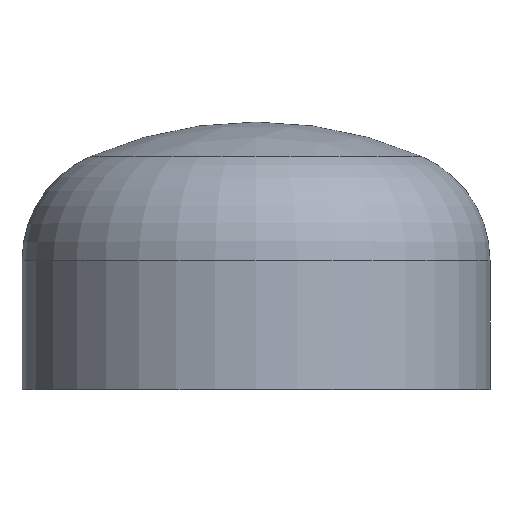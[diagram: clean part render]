
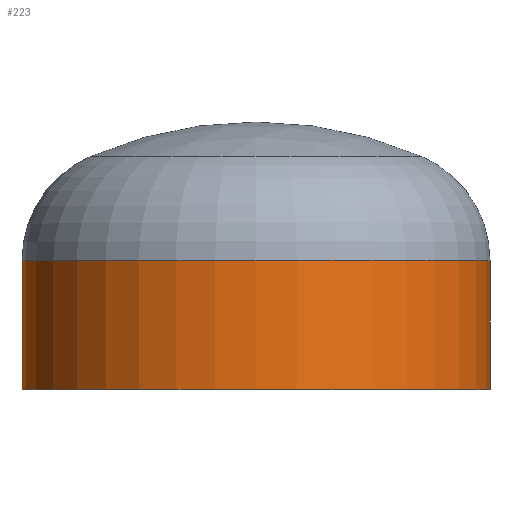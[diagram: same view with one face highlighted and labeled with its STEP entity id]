
A CAD part, top view. The second image highlights one B-rep face of the part: STEP entity #223.
In plain terms, the highlighted cylindrical face has radius 254 mm (diameter 508 mm), a partial arc.
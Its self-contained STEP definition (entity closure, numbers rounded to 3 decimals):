
#24 = DIRECTION ( 'NONE',  ( 0., -1., 0. ) ) ;
#34 = VERTEX_POINT ( 'NONE', #235 ) ;
#38 = ORIENTED_EDGE ( 'NONE', *, *, #87, .F. ) ;
#39 = VERTEX_POINT ( 'NONE', #217 ) ;
#47 = VERTEX_POINT ( 'NONE', #284 ) ;
#50 = ORIENTED_EDGE ( 'NONE', *, *, #152, .T. ) ;
#55 = LINE ( 'NONE', #322, #375 ) ;
#61 = CIRCLE ( 'NONE', #273, 254. ) ;
#68 = EDGE_CURVE ( 'NONE', #34, #39, #55, .T. ) ;
#76 = CARTESIAN_POINT ( 'NONE',  ( 0., 140., 0. ) ) ;
#87 = EDGE_CURVE ( 'NONE', #39, #47, #311, .T. ) ;
#93 = ORIENTED_EDGE ( 'NONE', *, *, #68, .F. ) ;
#98 = ORIENTED_EDGE ( 'NONE', *, *, #387, .T. ) ;
#109 = DIRECTION ( 'NONE',  ( 1., 0., 0. ) ) ;
#120 = VERTEX_POINT ( 'NONE', #305 ) ;
#124 = EDGE_LOOP ( 'NONE', ( #98, #50, #38, #93 ) ) ;
#141 = DIRECTION ( 'NONE',  ( 1., 0., 0. ) ) ;
#152 = EDGE_CURVE ( 'NONE', #120, #47, #252, .T. ) ;
#169 = VECTOR ( 'NONE', #345, 1000. ) ;
#190 = DIRECTION ( 'NONE',  ( 0., -1., 0. ) ) ;
#195 = AXIS2_PLACEMENT_3D ( 'NONE', #348, #347, #109 ) ;
#217 = CARTESIAN_POINT ( 'NONE',  ( 254., 0., 0. ) ) ;
#223 = ADVANCED_FACE ( 'NONE', ( #232 ), #285, .T. ) ;
#232 = FACE_OUTER_BOUND ( 'NONE', #124, .T. ) ;
#235 = CARTESIAN_POINT ( 'NONE',  ( 254., 140., 0. ) ) ;
#252 = LINE ( 'NONE', #315, #169 ) ;
#273 = AXIS2_PLACEMENT_3D ( 'NONE', #76, #24, #141 ) ;
#284 = CARTESIAN_POINT ( 'NONE',  ( -254., 0., 0. ) ) ;
#285 = CYLINDRICAL_SURFACE ( 'NONE', #352, 254. ) ;
#289 = CARTESIAN_POINT ( 'NONE',  ( 0., 0., 0. ) ) ;
#301 = DIRECTION ( 'NONE',  ( 1., 0., 0. ) ) ;
#305 = CARTESIAN_POINT ( 'NONE',  ( -254., 140., 0. ) ) ;
#311 = CIRCLE ( 'NONE', #195, 254. ) ;
#315 = CARTESIAN_POINT ( 'NONE',  ( -254., 0., 0. ) ) ;
#322 = CARTESIAN_POINT ( 'NONE',  ( 254., 0., 0. ) ) ;
#345 = DIRECTION ( 'NONE',  ( 0., -1., 0. ) ) ;
#347 = DIRECTION ( 'NONE',  ( 0., -1., 0. ) ) ;
#348 = CARTESIAN_POINT ( 'NONE',  ( 0., 0., 0. ) ) ;
#352 = AXIS2_PLACEMENT_3D ( 'NONE', #289, #383, #301 ) ;
#375 = VECTOR ( 'NONE', #190, 1000. ) ;
#383 = DIRECTION ( 'NONE',  ( 0., -1., 0. ) ) ;
#387 = EDGE_CURVE ( 'NONE', #34, #120, #61, .T. ) ;
